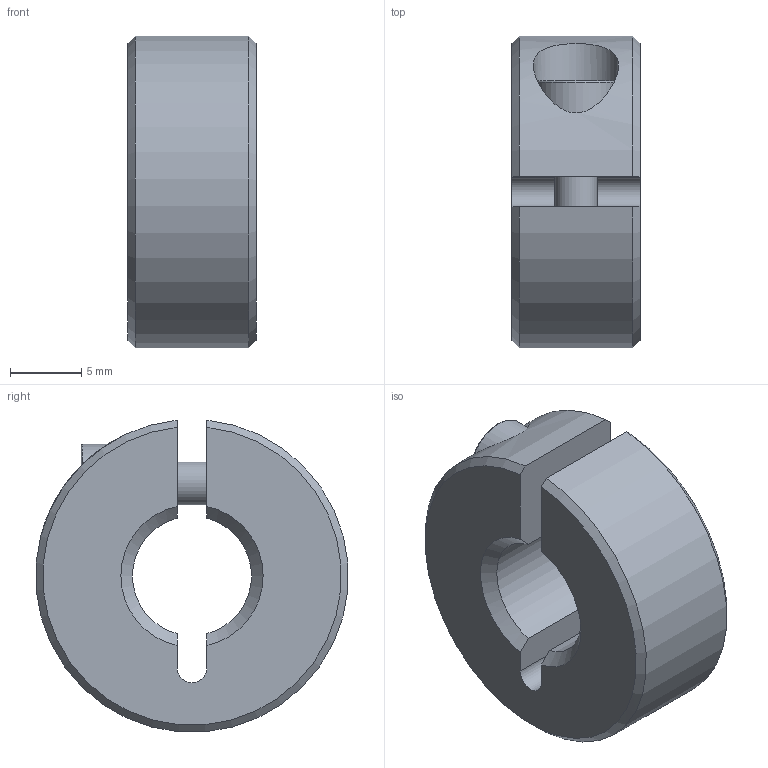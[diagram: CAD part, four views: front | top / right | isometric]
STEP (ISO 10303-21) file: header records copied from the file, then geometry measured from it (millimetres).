
FILE_DESCRIPTION( ( 'STEP AP203' ), '1' );
FILE_NAME( 'C:/Temp/Ganter_Step_05_03_2020/data/3_2/gn706_3/gn706_3_st/Threaded set collar GN 706.3-22-M10-ST.stp', '2020-03-13T05:33:33', ( 'License CC BY-ND 4.0' ), ( 'CADENAS' ), ' ', 'PARTsolutions', ' ' );
FILE_SCHEMA( ( 'CONFIG_CONTROL_DESIGN' ) );
Length unit declared in the file: millimetre
Products named in the file (1): _Threaded set collar GN 706.3-22-M10-ST
Bounding box: 9 x 21.92 x 21.91 mm (x, y, z)
Volume: 2665 mm3; surface area: 1753.1 mm2
Topology: 1 solids, 1 shells, 31 faces, 74 edges, 49 vertices
Faces by surface type: plane 16, cylinder 8, cone 6, torus 1
Full cylindrical faces by diameter (mm): 3 x1, 3.3 x1, 5.5 x1, 6 x1
Entity records: 1000 total; most frequent: CARTESIAN_POINT 251, DIRECTION 142, ORIENTED_EDGE 138, EDGE_CURVE 69, AXIS2_PLACEMENT_3D 54, VERTEX_POINT 49, EDGE_LOOP 42, FACE_OUTER_BOUND 36
